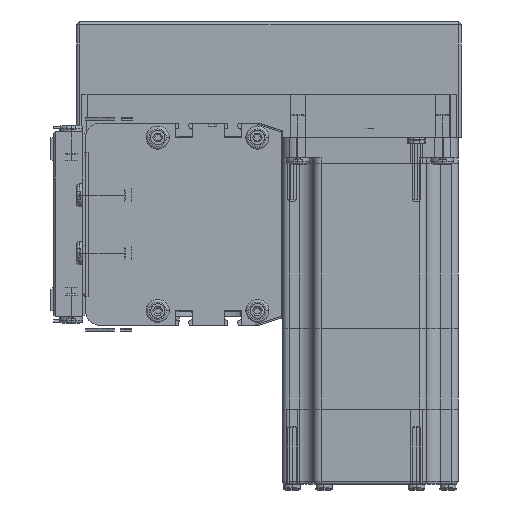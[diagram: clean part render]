
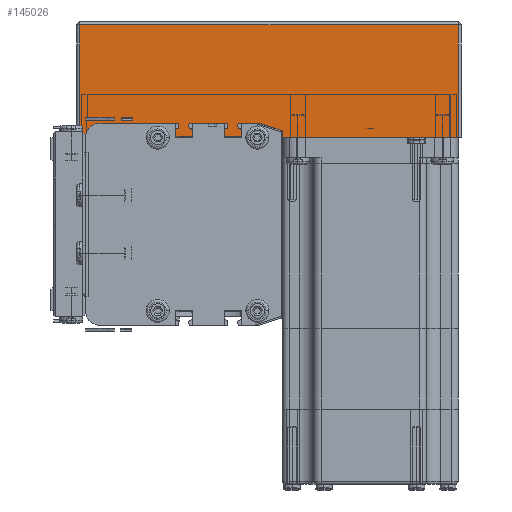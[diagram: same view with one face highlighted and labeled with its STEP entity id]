
A CAD part, left-side view. The second image highlights one B-rep face of the part: STEP entity #145026.
In plain terms, the highlighted planar face has unit normal (-1, 0, 0) as drawn and (0, 1, 0) by its records, which use the part's own axes.
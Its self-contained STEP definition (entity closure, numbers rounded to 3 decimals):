
#13763 = CARTESIAN_POINT ( 'NONE',  ( 132., 62., 0. ) ) ;
#13993 = FACE_OUTER_BOUND ( 'NONE', #145010, .T. ) ;
#13995 = AXIS2_PLACEMENT_3D ( 'NONE', #14010, #14057, #14054 ) ;
#13996 = CARTESIAN_POINT ( 'NONE',  ( 1., 62., 39. ) ) ;
#14003 = PLANE ( 'NONE',  #13995 ) ;
#14010 = CARTESIAN_POINT ( 'NONE',  ( 0., 62., 40. ) ) ;
#14016 = CARTESIAN_POINT ( 'NONE',  ( 132., 62., 39. ) ) ;
#14051 = DIRECTION ( 'NONE',  ( 0., 0., -1. ) ) ;
#14052 = VECTOR ( 'NONE', #14051, 1000. ) ;
#14054 = DIRECTION ( 'NONE',  ( 0., 0., -1. ) ) ;
#14055 = CARTESIAN_POINT ( 'NONE',  ( 132., 62., 40. ) ) ;
#14057 = DIRECTION ( 'NONE',  ( 0., -1., 0. ) ) ;
#14059 = LINE ( 'NONE', #14055, #14052 ) ;
#14060 = DIRECTION ( 'NONE',  ( 1., 0., 0. ) ) ;
#14061 = VECTOR ( 'NONE', #14060, 1000. ) ;
#14062 = CARTESIAN_POINT ( 'NONE',  ( 0., 62., 39. ) ) ;
#14063 = LINE ( 'NONE', #14062, #14061 ) ;
#14536 = CARTESIAN_POINT ( 'NONE',  ( 1., 62., 0. ) ) ;
#14609 = LINE ( 'NONE', #14701, #14700 ) ;
#14699 = DIRECTION ( 'NONE',  ( -1., 0., 0. ) ) ;
#14700 = VECTOR ( 'NONE', #14699, 1000. ) ;
#14701 = CARTESIAN_POINT ( 'NONE',  ( 0., 62., 0. ) ) ;
#14779 = VECTOR ( 'NONE', #14828, 1000. ) ;
#14787 = CARTESIAN_POINT ( 'NONE',  ( 1., 62., 40. ) ) ;
#14788 = LINE ( 'NONE', #14787, #14779 ) ;
#14828 = DIRECTION ( 'NONE',  ( 0., 0., 1. ) ) ;
#144999 = VERTEX_POINT ( 'NONE', #13763 ) ;
#145010 = EDGE_LOOP ( 'NONE', ( #145021, #145028, #145199, #145204 ) ) ;
#145020 = VERTEX_POINT ( 'NONE', #13996 ) ;
#145021 = ORIENTED_EDGE ( 'NONE', *, *, #145023, .T. ) ;
#145023 = EDGE_CURVE ( 'NONE', #145020, #145027, #14063, .T. ) ;
#145026 = ADVANCED_FACE ( 'NONE', ( #13993 ), #14003, .F. ) ;
#145027 = VERTEX_POINT ( 'NONE', #14016 ) ;
#145028 = ORIENTED_EDGE ( 'NONE', *, *, #145029, .T. ) ;
#145029 = EDGE_CURVE ( 'NONE', #145027, #144999, #14059, .T. ) ;
#145103 = VERTEX_POINT ( 'NONE', #14536 ) ;
#145151 = EDGE_CURVE ( 'NONE', #144999, #145103, #14609, .T. ) ;
#145199 = ORIENTED_EDGE ( 'NONE', *, *, #145151, .T. ) ;
#145202 = EDGE_CURVE ( 'NONE', #145103, #145020, #14788, .T. ) ;
#145204 = ORIENTED_EDGE ( 'NONE', *, *, #145202, .T. ) ;
